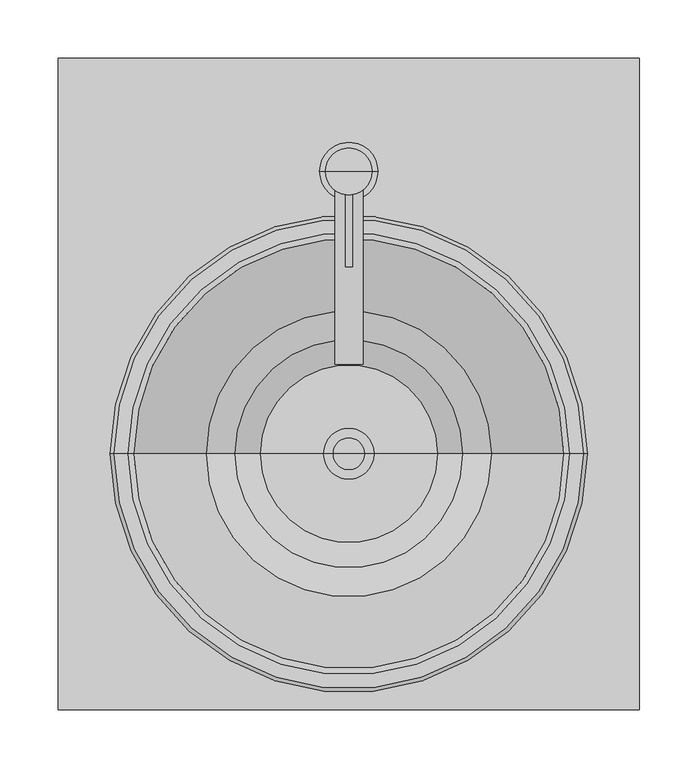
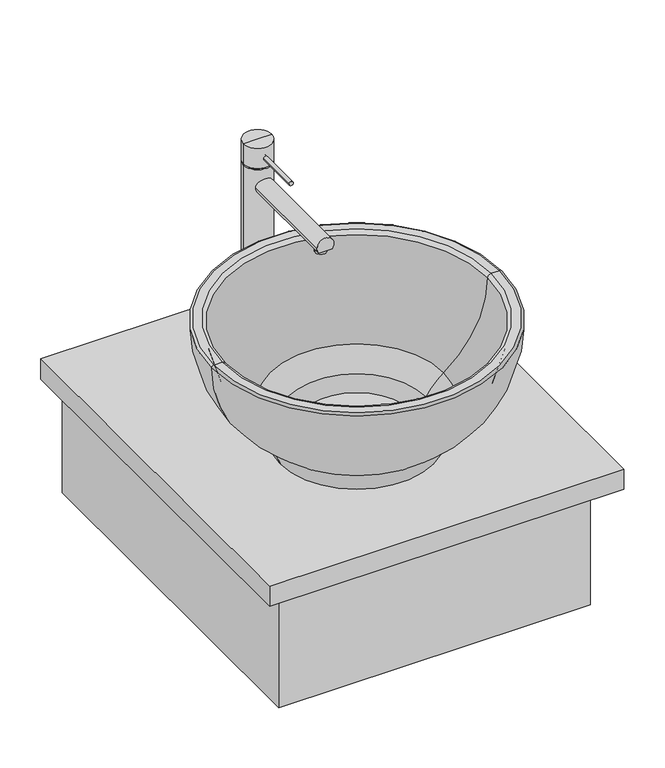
"""IFC4 building model written with IfcOpenShell, lengths in millimetres: flow terminal geometry, 싱크대 - 욕실(3) : 싱크대 - 욕실(3)."""

from ifc_helpers import new_model, si_unit, point, frame, frame_2d, origin, place, context, project, spatial, polyline, circle_curve, ellipse_curve, trimmed, segment, composite_curve, outline, extrude, source, transform, mapped, element, save
from ifc_brep_helpers import plane_surface, cylinder_surface, revolved_surface, advanced_brep


def flow_terminal_f2fd3159(model_context):
    return source(origin(), model_context, "Body", "SolidModel", [
        advanced_brep(
        [(36.8498666, -263.0115865, 240.6419785), (12.8498666, -263.0115865, 240.6419785), (15.4584351, -263.0115865, 233.1719709), (34.2412981, -263.0115865, 233.1719709), (12.8498666, -97.3032703, 240.6419785), (36.8498666, -97.3032703, 240.6419785), (34.2412981, -238.0115865, 233.1719709), (15.4584351, -238.0115865, 233.1719709)],
        [
            (0, 1, circle_curve(frame((24.8498666, -263.0115865, 240.6419785), z_axis=(0.0, -1.0, 0.0), x_axis=(1.0000000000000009, 0.0, 0.0)), 12.0)),
            (1, 2, circle_curve(frame((24.8498666, -263.0115865, 240.6419785), z_axis=(0.0, -1.0, 0.0), x_axis=(1.0000000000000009, 0.0, 0.0)), 12.0)),
            (2, 3),
            (3, 0, circle_curve(frame((24.8498666, -263.0115865, 240.6419785), z_axis=(0.0, -1.0, 0.0), x_axis=(1.0000000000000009, 0.0, 0.0)), 12.0)),
            (4, 5, circle_curve(frame((24.8498666, -97.3032703, 240.6419785), z_axis=(0.0, 1.0, 0.0), x_axis=(1.0000000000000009, 0.0, 0.0)), 12.0)),
            (5, 4, circle_curve(frame((24.8498666, -97.3032703, 240.6419785), z_axis=(0.0, 1.0, 0.0), x_axis=(1.0000000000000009, 0.0, 0.0)), 12.0)),
            (5, 0),
            (3, 6),
            (6, 7, circle_curve(frame((24.8498666, -238.0115865, 240.6419785), z_axis=(0.0, 1.0, 0.0), x_axis=(1.0000000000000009, 0.0, 0.0)), 12.0)),
            (7, 2),
            (1, 4),
            (7, 6),
        ],
        [
            plane_surface(frame((36.8498666, -263.0115865, 240.6419785), z_axis=(0.0, -1.0, 0.0), x_axis=(0.0, 0.0, 1.0))),
            plane_surface(frame((36.8498666, -97.3032703, 240.6419785), z_axis=(0.0, 1.0, 0.0), x_axis=(0.0, 0.0, -1.0))),
            cylinder_surface(frame((24.8498666, -97.3032703, 240.6419785), z_axis=(0.0, -1.0000000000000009, 0.0), x_axis=(1.0000000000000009, 0.0, 0.0)), 12.0),
            plane_surface(frame((9.4348983, -263.0115865, 233.1719709), z_axis=(0.0, 0.0, -1.0), x_axis=(1.0, 0.0, 0.0))),
            plane_surface(frame((9.4348983, -238.0115865, 233.1719709), z_axis=(0.0, -1.0, 0.0), x_axis=(1.0, 0.0, 0.0))),
        ],
        [
            (0, [[1, 2, 3, 4]]),
            (1, [[5, 6]]),
            (2, [[-6, 7, -4, 8, 9, 10, -2, 11]]),
            (2, [[-1, -7, -5, -11]]),
            (3, [[12, -8, -3, -10]]),
            (4, [[-12, -9]]),
        ],
    ),
        extrude(outline(composite_curve([segment(trimmed(circle_curve(frame_2d((283.2676852, 24.8498666)), 3.0), [point((283.2676852, 21.8498666))], [point((283.2676852, 27.8498666))], False, "CARTESIAN"), True, "CONTINUOUS"), segment(trimmed(circle_curve(frame_2d((283.2676852, 24.8498666)), 3.0), [point((283.2676852, 27.8498666))], [point((283.2676852, 21.8498666))], False, "CARTESIAN"), True, "CONTINUOUS")], self_intersect=False)), frame((0.0, -179.3463368, 0.0), z_axis=(0.0, 1.0, 0.0), x_axis=(0.0, 0.0, 1.0)), (0.0, 0.0, 1.0), 82.0430665),
        advanced_brep(
        [(24.8498666, -97.3032703, 0.0), (-0.1501334, -97.3032703, 0.0), (49.8498666, -97.3032703, 0.0), (44.8498666, -97.3032703, 300.0), (4.8498666, -97.3032703, 300.0), (24.8498666, -97.3032703, 300.0), (44.8498666, -97.3032703, 270.0), (4.8498666, -97.3032703, 270.0), (42.8498666, -97.3032703, 270.0), (6.8498666, -97.3032703, 270.0), (42.8498666, -97.3032703, 268.0), (6.8498666, -97.3032703, 268.0), (44.8498666, -97.3032703, 268.0), (4.8498666, -97.3032703, 268.0), (44.8498666, -97.3032703, 4.0), (4.8498666, -97.3032703, 4.0), (49.8498666, -97.3032703, 4.0), (-0.1501334, -97.3032703, 4.0)],
        [
            (0, 1),
            (1, 2, circle_curve(frame((24.8498666, -97.3032703, 0.0), z_axis=(0.0, 0.0, -1.0), x_axis=(-1.0000000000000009, 0.0, 0.0)), 25.0)),
            (2, 0),
            (2, 1, circle_curve(frame((24.8498666, -97.3032703, 0.0), z_axis=(0.0, 0.0, -1.0), x_axis=(-1.0000000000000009, 0.0, 0.0)), 25.0)),
            (3, 4, circle_curve(frame((24.8498666, -97.3032703, 300.0), z_axis=(0.0, 0.0, 1.0), x_axis=(-1.0000000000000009, 0.0, 0.0)), 20.0)),
            (4, 5),
            (5, 3),
            (4, 3, circle_curve(frame((24.8498666, -97.3032703, 300.0), z_axis=(0.0, 0.0, 1.0), x_axis=(-1.0000000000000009, 0.0, 0.0)), 20.0)),
            (3, 6),
            (6, 7, circle_curve(frame((24.8498666, -97.3032703, 270.0), z_axis=(0.0, 0.0, 1.0), x_axis=(-1.0000000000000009, 0.0, 0.0)), 20.0)),
            (7, 4),
            (7, 6, circle_curve(frame((24.8498666, -97.3032703, 270.0), z_axis=(0.0, 0.0, 1.0), x_axis=(-1.0000000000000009, 0.0, 0.0)), 20.0)),
            (6, 8),
            (8, 9, circle_curve(frame((24.8498666, -97.3032703, 270.0), z_axis=(0.0, 0.0, 1.0), x_axis=(-1.0000000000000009, 0.0, 0.0)), 18.0)),
            (9, 7),
            (9, 8, circle_curve(frame((24.8498666, -97.3032703, 270.0), z_axis=(0.0, 0.0, 1.0), x_axis=(-1.0000000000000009, 0.0, 0.0)), 18.0)),
            (8, 10),
            (10, 11, circle_curve(frame((24.8498666, -97.3032703, 268.0), z_axis=(0.0, 0.0, 1.0), x_axis=(-1.0000000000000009, 0.0, 0.0)), 18.0)),
            (11, 9),
            (11, 10, circle_curve(frame((24.8498666, -97.3032703, 268.0), z_axis=(0.0, 0.0, 1.0), x_axis=(-1.0000000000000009, 0.0, 0.0)), 18.0)),
            (10, 12),
            (12, 13, circle_curve(frame((24.8498666, -97.3032703, 268.0), z_axis=(0.0, 0.0, 1.0), x_axis=(-1.0000000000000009, 0.0, 0.0)), 20.0)),
            (13, 11),
            (13, 12, circle_curve(frame((24.8498666, -97.3032703, 268.0), z_axis=(0.0, 0.0, 1.0), x_axis=(-1.0000000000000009, 0.0, 0.0)), 20.0)),
            (12, 14),
            (14, 15, circle_curve(frame((24.8498666, -97.3032703, 4.0), z_axis=(0.0, 0.0, 1.0), x_axis=(-1.0000000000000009, 0.0, 0.0)), 20.0)),
            (15, 13),
            (15, 14, circle_curve(frame((24.8498666, -97.3032703, 4.0), z_axis=(0.0, 0.0, 1.0), x_axis=(-1.0000000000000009, 0.0, 0.0)), 20.0)),
            (14, 16),
            (16, 17, circle_curve(frame((24.8498666, -97.3032703, 4.0), z_axis=(0.0, 0.0, 1.0), x_axis=(-1.0000000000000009, 0.0, 0.0)), 25.0)),
            (17, 15),
            (17, 16, circle_curve(frame((24.8498666, -97.3032703, 4.0), z_axis=(0.0, 0.0, 1.0), x_axis=(-1.0000000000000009, 0.0, 0.0)), 25.0)),
            (1, 17),
            (16, 2),
        ],
        [
            plane_surface(frame((24.8498666, -97.3032703, 0.0), z_axis=(0.0, 0.0, -1.0), x_axis=(-1.0, 0.0, 0.0))),
            plane_surface(frame((24.8498666, -97.3032703, 300.0), z_axis=(0.0, 0.0, 1.0), x_axis=(-1.0, 0.0, 0.0))),
            cylinder_surface(frame((24.8498666, -97.3032703, -25.0), z_axis=(0.0, 0.0, -1.0), x_axis=(-1.0000000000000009, 0.0, 0.0)), 20.0),
            plane_surface(frame((24.8498666, -97.3032703, 270.0), z_axis=(0.0, 0.0, -1.0), x_axis=(-1.0, 0.0, 0.0))),
            cylinder_surface(frame((24.8498666, -97.3032703, -25.0), z_axis=(0.0, 0.0, -1.0), x_axis=(-1.0000000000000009, 0.0, 0.0)), 18.0),
            plane_surface(frame((24.8498666, -97.3032703, 268.0), z_axis=(0.0, 0.0, 1.0), x_axis=(-1.0, 0.0, 0.0))),
            plane_surface(frame((24.8498666, -97.3032703, 4.0), z_axis=(0.0, 0.0, 1.0), x_axis=(-1.0, 0.0, 0.0))),
            cylinder_surface(frame((24.8498666, -97.3032703, -25.0), z_axis=(0.0, 0.0, -1.0), x_axis=(-1.0000000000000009, 0.0, 0.0)), 25.0),
        ],
        [
            (0, [[1, 2, 3]]),
            (0, [[-1, -3, 4]]),
            (1, [[5, 6, 7]]),
            (1, [[-6, 8, -7]]),
            (2, [[-5, 9, 10, 11]]),
            (2, [[-8, -11, 12, -9]]),
            (3, [[-10, 13, 14, 15]]),
            (3, [[-12, -15, 16, -13]]),
            (4, [[-14, 17, 18, 19]]),
            (4, [[-16, -19, 20, -17]]),
            (5, [[-18, 21, 22, 23]]),
            (5, [[-20, -23, 24, -21]]),
            (2, [[-22, 25, 26, 27]]),
            (2, [[-24, -27, 28, -25]]),
            (6, [[-26, 29, 30, 31]]),
            (6, [[-28, -31, 32, -29]]),
            (7, [[-2, 33, -30, 34]]),
            (7, [[-4, -34, -32, -33]]),
        ],
    ),
        advanced_brep(
        [(16.8498666, -251.7329747, 233.1719709), (32.8498666, -251.7329747, 233.1719709), (16.8498666, -251.7329747, 227.0717002), (32.8498666, -251.7329747, 227.0717002)],
        [
            (0, 1, circle_curve(frame((24.8498666, -251.7329747, 233.1719709), z_axis=(0.0, 0.0, 1.0), x_axis=(1.0000000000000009, 0.0, 0.0)), 8.0)),
            (1, 0, circle_curve(frame((24.8498666, -251.7329747, 233.1719709), z_axis=(0.0, 0.0, 1.0), x_axis=(1.0000000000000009, 0.0, 0.0)), 8.0)),
            (2, 3, circle_curve(frame((24.8498666, -251.7329747, 227.0717002), z_axis=(0.0, 0.0, -1.0), x_axis=(1.0000000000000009, 0.0, 0.0)), 8.0)),
            (3, 2, circle_curve(frame((24.8498666, -251.7329747, 227.0717002), z_axis=(0.0, 0.0, -1.0), x_axis=(1.0000000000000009, 0.0, 0.0)), 8.0)),
            (0, 2),
            (3, 1),
        ],
        [
            plane_surface(frame((32.8498666, -251.7329747, 233.1719709), z_axis=(0.0, 0.0, 1.0), x_axis=(0.0, 1.0, 0.0))),
            plane_surface(frame((32.8498666, -251.7329747, 227.0717002), z_axis=(0.0, 0.0, -1.0), x_axis=(0.0, -1.0, 0.0))),
            cylinder_surface(frame((24.8498666, -251.7329747, 227.0717002), z_axis=(0.0, 0.0, 1.0), x_axis=(1.0000000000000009, 0.0, 0.0)), 8.0),
        ],
        [
            (0, [[1, 2]]),
            (1, [[3, 4]]),
            (2, [[-1, 5, -4, 6]]),
            (2, [[-2, -6, -3, -5]]),
        ],
    ),
        extrude(outline(polyline([(244.8498666, 0.0), (244.8498666, -530.0), (-195.1501334, -530.0), (-195.1501334, 0.0), (244.8498666, 0.0)])), frame((0.0, 0.0, -210.1486732), z_axis=(0.0, 0.0, 1.0), x_axis=(1.0, 0.0, 0.0)), (0.0, 0.0, 1.0), 180.1486732),
        advanced_brep(
        [(159.492516, -340.0, 38.9404698), (-109.7927828, -340.0, 38.9404698), (-83.6446991, -340.0, 0.0149562), (133.3444323, -340.0, 0.0149562), (229.8893941, -340.0, 176.9639382), (-180.1896609, -340.0, 176.9639382), (226.8893975, -340.0, 179.9594217), (-177.1896643, -340.0, 179.9594217), (214.8413431, -340.0, 179.9594217), (-165.1416099, -340.0, 179.9594217), (209.8416315, -340.0, 175.0131262), (-160.1418983, -340.0, 175.0131262), (147.7614611, -340.0, 55.100298), (-98.0617279, -340.0, 55.100298), (123.0230307, -340.0, 27.5820235), (-73.3232975, -340.0, 27.5820235), (101.325246, -340.0, 15.0), (-51.6255129, -340.0, 15.0), (46.8498666, -340.0, 15.0), (2.8498666, -340.0, 15.0), (46.8498666, -340.0, 13.464751), (2.8498666, -340.0, 13.464751), (41.8498666, -340.0, 13.464751), (7.8498666, -340.0, 13.464751), (41.8498666, -340.0, 0.0149562), (7.8498666, -340.0, 0.0149562)],
        [
            (0, 1, circle_curve(frame((24.8498666, -340.0, 38.9404698), z_axis=(0.0, 0.0, -1.0), x_axis=(-1.0, 0.0, 0.0)), 134.6426494)),
            (1, 2, circle_curve(frame((-149.498803, -340.0, -15.9771174), z_axis=(0.0, 1.0, 0.0), x_axis=(-1.0, 0.0, 0.0)), 67.7680561)),
            (2, 3, circle_curve(frame((24.8498666, -340.0, 0.0149562), z_axis=(0.0, 0.0, 1.0), x_axis=(-1.0, 0.0, 0.0)), 108.4945657)),
            (3, 0, circle_curve(frame((199.1985362, -340.0, -15.9771174), z_axis=(0.0, 1.0, 0.0), x_axis=(1.0, 0.0, 0.0)), 67.7680561)),
            (1, 0, circle_curve(frame((24.8498666, -340.0, 38.9404698), z_axis=(0.0, 0.0, -1.0), x_axis=(-1.0, 0.0, 0.0)), 134.6426494)),
            (3, 2, circle_curve(frame((24.8498666, -340.0, 0.0149562), z_axis=(0.0, 0.0, 1.0), x_axis=(-1.0, 0.0, 0.0)), 108.4945657)),
            (4, 5, circle_curve(frame((24.8498666, -340.0, 176.9639382), z_axis=(0.0, 0.0, -1.0), x_axis=(-1.0, 0.0, 0.0)), 205.0395275)),
            (5, 1, circle_curve(frame((-10.185344, -340.0, 176.7079965), z_axis=(0.0, -1.0, 0.0), x_axis=(-1.0, 0.0, 0.0)), 170.0045096)),
            (0, 4, circle_curve(frame((59.8850772, -340.0, 176.7079965), z_axis=(0.0, -1.0, 0.0), x_axis=(1.0, 0.0, 0.0)), 170.0045096)),
            (5, 4, circle_curve(frame((24.8498666, -340.0, 176.9639382), z_axis=(0.0, 0.0, -1.0), x_axis=(-1.0, 0.0, 0.0)), 205.0395275)),
            (6, 7, circle_curve(frame((24.8498666, -340.0, 179.9594217), z_axis=(0.0, 0.0, -1.0), x_axis=(-1.0, 0.0, 0.0)), 202.0395309)),
            (7, 5, circle_curve(frame((-177.1896643, -340.0, 176.9594217), z_axis=(0.0, -1.0, 0.0), x_axis=(-1.0, 0.0, 0.0)), 3.0)),
            (4, 6, circle_curve(frame((226.8893975, -340.0, 176.9594217), z_axis=(0.0, -1.0, 0.0), x_axis=(1.0, 0.0, 0.0)), 3.0)),
            (7, 6, circle_curve(frame((24.8498666, -340.0, 179.9594217), z_axis=(0.0, 0.0, -1.0), x_axis=(-1.0, 0.0, 0.0)), 202.0395309)),
            (8, 9, circle_curve(frame((24.8498666, -340.0, 179.9594217), z_axis=(0.0, 0.0, -1.0), x_axis=(-1.0, 0.0, 0.0)), 189.9914765)),
            (9, 7),
            (6, 8),
            (9, 8, circle_curve(frame((24.8498666, -340.0, 179.9594217), z_axis=(0.0, 0.0, -1.0), x_axis=(-1.0, 0.0, 0.0)), 189.9914765)),
            (10, 11, circle_curve(frame((24.8498666, -340.0, 175.0131262), z_axis=(0.0, 0.0, -1.0), x_axis=(-1.0, 0.0, 0.0)), 184.9917649)),
            (11, 9, circle_curve(frame((-165.1416099, -340.0, 174.9594217), z_axis=(0.0, -1.0, 0.0), x_axis=(-1.0, 0.0, 0.0)), 5.0)),
            (8, 10, circle_curve(frame((214.8413431, -340.0, 174.9594217), z_axis=(0.0, -1.0, 0.0), x_axis=(1.0, 0.0, 0.0)), 5.0)),
            (11, 10, circle_curve(frame((24.8498666, -340.0, 175.0131262), z_axis=(0.0, 0.0, -1.0), x_axis=(-1.0, 0.0, 0.0)), 184.9917649)),
            (12, 13, circle_curve(frame((24.8498666, -340.0, 55.100298), z_axis=(0.0, 0.0, -1.0), x_axis=(-1.0, 0.0, 0.0)), 122.9115945)),
            (13, 11, circle_curve(frame((-10.1797596, -340.0, 176.6239477), z_axis=(0.0, 1.0, 0.0), x_axis=(-1.0, 0.0, 0.0)), 149.9707898)),
            (10, 12, circle_curve(frame((59.8794928, -340.0, 176.6239477), z_axis=(0.0, 1.0, 0.0), x_axis=(1.0, 0.0, 0.0)), 149.9707898)),
            (13, 12, circle_curve(frame((24.8498666, -340.0, 55.100298), z_axis=(0.0, 0.0, -1.0), x_axis=(-1.0, 0.0, 0.0)), 122.9115945)),
            (14, 15, circle_curve(frame((24.8498666, -340.0, 27.5820235), z_axis=(0.0, 0.0, -1.0), x_axis=(-1.0, 0.0, 0.0)), 98.1731641)),
            (15, 13, circle_curve(frame((-149.4830487, -340.0, -16.0053759), z_axis=(0.0, -1.0, 0.0), x_axis=(-1.0, 0.0, 0.0)), 87.7506073)),
            (12, 14, circle_curve(frame((199.1827819, -340.0, -16.0053759), z_axis=(0.0, -1.0, 0.0), x_axis=(1.0, 0.0, 0.0)), 87.7506073)),
            (15, 14, circle_curve(frame((24.8498666, -340.0, 27.5820235), z_axis=(0.0, 0.0, -1.0), x_axis=(-1.0, 0.0, 0.0)), 98.1731641)),
            (16, 17, circle_curve(frame((24.8498666, -340.0, 15.0), z_axis=(0.0, 0.0, -1.0), x_axis=(-1.0, 0.0, 0.0)), 76.4753794)),
            (17, 15, circle_curve(frame((-51.6255129, -340.0, 40.0), z_axis=(0.0, 1.0, 0.0), x_axis=(-1.0, 0.0, 0.0)), 25.0)),
            (14, 16, circle_curve(frame((101.325246, -340.0, 40.0), z_axis=(0.0, 1.0, 0.0), x_axis=(1.0, 0.0, 0.0)), 25.0)),
            (17, 16, circle_curve(frame((24.8498666, -340.0, 15.0), z_axis=(0.0, 0.0, -1.0), x_axis=(-1.0, 0.0, 0.0)), 76.4753794)),
            (18, 19, circle_curve(frame((24.8498666, -340.0, 15.0), z_axis=(0.0, 0.0, -1.0), x_axis=(-1.0, 0.0, 0.0)), 22.0)),
            (19, 17),
            (16, 18),
            (19, 18, circle_curve(frame((24.8498666, -340.0, 15.0), z_axis=(0.0, 0.0, -1.0), x_axis=(-1.0, 0.0, 0.0)), 22.0)),
            (20, 21, circle_curve(frame((24.8498666, -340.0, 13.464751), z_axis=(0.0, 0.0, -1.0), x_axis=(-1.0, 0.0, 0.0)), 22.0)),
            (21, 19),
            (18, 20),
            (21, 20, circle_curve(frame((24.8498666, -340.0, 13.464751), z_axis=(0.0, 0.0, -1.0), x_axis=(-1.0, 0.0, 0.0)), 22.0)),
            (22, 23, circle_curve(frame((24.8498666, -340.0, 13.464751), z_axis=(0.0, 0.0, -1.0), x_axis=(-1.0, 0.0, 0.0)), 17.0)),
            (23, 21),
            (20, 22),
            (23, 22, circle_curve(frame((24.8498666, -340.0, 13.464751), z_axis=(0.0, 0.0, -1.0), x_axis=(-1.0, 0.0, 0.0)), 17.0)),
            (24, 25, circle_curve(frame((24.8498666, -340.0, 0.0149562), z_axis=(0.0, 0.0, -1.0), x_axis=(-1.0, 0.0, 0.0)), 17.0)),
            (25, 23),
            (22, 24),
            (25, 24, circle_curve(frame((24.8498666, -340.0, 0.0149562), z_axis=(0.0, 0.0, -1.0), x_axis=(-1.0, 0.0, 0.0)), 17.0)),
            (2, 25),
            (24, 3),
        ],
        [
            revolved_surface(trimmed(ellipse_curve(frame((-149.498803, -340.0, -15.9771174), z_axis=(0.0, -1.0, 0.0), x_axis=(-1.0, 0.0, 0.0)), 67.7680561, 67.7680561), [point((-83.6446991, -340.0, 0.0149562))], [point((-109.7927828, -340.0, 38.9404698))], True, "CARTESIAN"), (24.8498666, -340.0, -50.0), (0.0, 0.0, 1.0)),
            revolved_surface(trimmed(ellipse_curve(frame((-10.185344, -340.0, 176.7079965), z_axis=(0.0, 1.0, 0.0), x_axis=(-1.0, 0.0, 0.0)), 170.0045096, 170.0045096), [point((-109.7927828, -340.0, 38.9404698))], [point((-180.1896609, -340.0, 176.9639382))], True, "CARTESIAN"), (24.8498666, -340.0, -50.0), (0.0, 0.0, 1.0)),
            revolved_surface(trimmed(ellipse_curve(frame((-177.1896643, -340.0, 176.9594217), z_axis=(0.0, 1.0, 0.0), x_axis=(-1.0, 0.0, 0.0)), 3.0, 3.0), [point((-180.1896609, -340.0, 176.9639382))], [point((-177.1896643, -340.0, 179.9594217))], True, "CARTESIAN"), (24.8498666, -340.0, -50.0), (0.0, 0.0, 1.0)),
            plane_surface(frame((24.8498666, -340.0, 179.9594217), z_axis=(0.0, 0.0, 1.0), x_axis=(-1.0, 0.0, 0.0))),
            revolved_surface(trimmed(ellipse_curve(frame((-165.1416099, -340.0, 174.9594217), z_axis=(0.0, 1.0, 0.0), x_axis=(-1.0, 0.0, 0.0)), 5.0, 5.0), [point((-165.1416099, -340.0, 179.9594217))], [point((-160.1418983, -340.0, 175.0131262))], True, "CARTESIAN"), (24.8498666, -340.0, -50.0), (0.0, 0.0, 1.0)),
            revolved_surface(trimmed(ellipse_curve(frame((-10.1797596, -340.0, 176.6239477), z_axis=(0.0, -1.0, 0.0), x_axis=(-1.0, 0.0, 0.0)), 149.9707898, 149.9707898), [point((-160.1418983, -340.0, 175.0131262))], [point((-98.0617279, -340.0, 55.100298))], True, "CARTESIAN"), (24.8498666, -340.0, -50.0), (0.0, 0.0, 1.0)),
            revolved_surface(trimmed(ellipse_curve(frame((-149.4830487, -340.0, -16.0053759), z_axis=(0.0, 1.0, 0.0), x_axis=(-1.0, 0.0, 0.0)), 87.7506073, 87.7506073), [point((-98.0617279, -340.0, 55.100298))], [point((-73.3232975, -340.0, 27.5820235))], True, "CARTESIAN"), (24.8498666, -340.0, -50.0), (0.0, 0.0, 1.0)),
            revolved_surface(trimmed(ellipse_curve(frame((-51.6255129, -340.0, 40.0), z_axis=(0.0, -1.0, 0.0), x_axis=(-1.0, 0.0, 0.0)), 25.0, 25.0), [point((-73.3232975, -340.0, 27.5820235))], [point((-51.6255129, -340.0, 15.0))], True, "CARTESIAN"), (24.8498666, -340.0, -50.0), (0.0, 0.0, 1.0)),
            plane_surface(frame((24.8498666, -340.0, 15.0), z_axis=(0.0, 0.0, 1.0), x_axis=(-1.0, 0.0, 0.0))),
            revolved_surface(polyline([(2.8498665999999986, -340.0, 15.0), (2.8498665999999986, -340.0, 13.464751)]), (24.8498666, -340.0, -50.0), (0.0, 0.0, 1.0)),
            plane_surface(frame((24.8498666, -340.0, 13.464751), z_axis=(0.0, 0.0, 1.0), x_axis=(-1.0, 0.0, 0.0))),
            revolved_surface(polyline([(7.849866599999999, -340.0, 13.464751), (7.849866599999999, -340.0, 0.014956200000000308)]), (24.8498666, -340.0, -50.0), (0.0, 0.0, 1.0)),
            plane_surface(frame((24.8498666, -340.0, 0.0149562), z_axis=(0.0, 0.0, -1.0), x_axis=(-1.0, 0.0, 0.0))),
        ],
        [
            (0, [[1, 2, 3, 4]]),
            (0, [[5, -4, 6, -2]]),
            (1, [[7, 8, -1, 9]]),
            (1, [[10, -9, -5, -8]]),
            (2, [[11, 12, -7, 13]]),
            (2, [[14, -13, -10, -12]]),
            (3, [[15, 16, -11, 17]]),
            (3, [[18, -17, -14, -16]]),
            (4, [[19, 20, -15, 21]]),
            (4, [[22, -21, -18, -20]]),
            (5, [[23, 24, -19, 25]]),
            (5, [[26, -25, -22, -24]]),
            (6, [[27, 28, -23, 29]]),
            (6, [[30, -29, -26, -28]]),
            (7, [[31, 32, -27, 33]]),
            (7, [[34, -33, -30, -32]]),
            (8, [[35, 36, -31, 37]]),
            (8, [[38, -37, -34, -36]]),
            (9, [[39, 40, -35, 41]]),
            (9, [[42, -41, -38, -40]]),
            (10, [[43, 44, -39, 45]]),
            (10, [[46, -45, -42, -44]]),
            (11, [[47, 48, -43, 49]]),
            (11, [[50, -49, -46, -48]]),
            (12, [[-3, 51, -47, 52]]),
            (12, [[-6, -52, -50, -51]]),
        ],
    ),
        extrude(outline(polyline([(274.8498666, 0.0), (274.8498666, -560.0), (-225.1501334, -560.0), (-225.1501334, 0.0), (274.8498666, 0.0)])), frame((0.0, 0.0, -30.0), z_axis=(0.0, 0.0, 1.0), x_axis=(1.0, 0.0, 0.0)), (0.0, 0.0, 1.0), 30.0),
        advanced_brep(
        [(38.5877729, -340.0, 15.0), (11.1119603, -340.0, 15.0), (2.8498666, -340.0, 15.0), (46.8498666, -340.0, 15.0), (38.5877729, -340.0, 3.7247134), (11.1119603, -340.0, 3.7247134), (24.8498666, -340.0, 3.7247134), (41.8498666, -340.0, 0.0), (7.8498666, -340.0, 0.0), (24.8498666, -340.0, 0.0), (41.8498666, -340.0, 13.464751), (7.8498666, -340.0, 13.464751), (46.8498666, -340.0, 13.464751), (2.8498666, -340.0, 13.464751)],
        [
            (0, 1, circle_curve(frame((24.8498666, -340.0, 15.0), z_axis=(0.0, 0.0, -1.0), x_axis=(-1.0, 0.0, 0.0)), 13.7379063)),
            (1, 2),
            (2, 3, circle_curve(frame((24.8498666, -340.0, 15.0), z_axis=(0.0, 0.0, 1.0), x_axis=(-1.0, 0.0, 0.0)), 22.0)),
            (3, 0),
            (1, 0, circle_curve(frame((24.8498666, -340.0, 15.0), z_axis=(0.0, 0.0, -1.0), x_axis=(-1.0, 0.0, 0.0)), 13.7379063)),
            (3, 2, circle_curve(frame((24.8498666, -340.0, 15.0), z_axis=(0.0, 0.0, 1.0), x_axis=(-1.0, 0.0, 0.0)), 22.0)),
            (4, 5, circle_curve(frame((24.8498666, -340.0, 3.7247134), z_axis=(0.0, 0.0, -1.0), x_axis=(-1.0, 0.0, 0.0)), 13.7379063)),
            (5, 1),
            (0, 4),
            (5, 4, circle_curve(frame((24.8498666, -340.0, 3.7247134), z_axis=(0.0, 0.0, -1.0), x_axis=(-1.0, 0.0, 0.0)), 13.7379063)),
            (6, 5),
            (4, 6),
            (7, 8, circle_curve(frame((24.8498666, -340.0, 0.0), z_axis=(0.0, 0.0, -1.0), x_axis=(-1.0, 0.0, 0.0)), 17.0)),
            (8, 9),
            (9, 7),
            (8, 7, circle_curve(frame((24.8498666, -340.0, 0.0), z_axis=(0.0, 0.0, -1.0), x_axis=(-1.0, 0.0, 0.0)), 17.0)),
            (10, 11, circle_curve(frame((24.8498666, -340.0, 13.464751), z_axis=(0.0, 0.0, -1.0), x_axis=(-1.0, 0.0, 0.0)), 17.0)),
            (11, 8),
            (7, 10),
            (11, 10, circle_curve(frame((24.8498666, -340.0, 13.464751), z_axis=(0.0, 0.0, -1.0), x_axis=(-1.0, 0.0, 0.0)), 17.0)),
            (12, 13, circle_curve(frame((24.8498666, -340.0, 13.464751), z_axis=(0.0, 0.0, -1.0), x_axis=(-1.0, 0.0, 0.0)), 22.0)),
            (13, 11),
            (10, 12),
            (13, 12, circle_curve(frame((24.8498666, -340.0, 13.464751), z_axis=(0.0, 0.0, -1.0), x_axis=(-1.0, 0.0, 0.0)), 22.0)),
            (2, 13),
            (12, 3),
        ],
        [
            plane_surface(frame((24.8498666, -340.0, 15.0), z_axis=(0.0, 0.0, 1.0), x_axis=(-1.0, 0.0, 0.0))),
            revolved_surface(polyline([(11.111960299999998, -340.0, 15.000000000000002), (11.111960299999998, -340.0, 3.7247134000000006)]), (24.8498666, -340.0, -6.9916745), (0.0, 0.0, 1.0)),
            plane_surface(frame((24.8498666, -340.0, 3.7247134), z_axis=(0.0, 0.0, 1.0), x_axis=(-1.0, 0.0, 0.0))),
            plane_surface(frame((24.8498666, -340.0, 0.0), z_axis=(0.0, 0.0, -1.0), x_axis=(-1.0, 0.0, 0.0))),
            cylinder_surface(frame((24.8498666, -340.0, -6.9916745), z_axis=(0.0, 0.0, 1.0), x_axis=(-1.0, 0.0, 0.0)), 17.0),
            plane_surface(frame((24.8498666, -340.0, 13.464751), z_axis=(0.0, 0.0, -1.0), x_axis=(-1.0, 0.0, 0.0))),
            cylinder_surface(frame((24.8498666, -340.0, -6.9916745), z_axis=(0.0, 0.0, 1.0), x_axis=(-1.0, 0.0, 0.0)), 22.0),
        ],
        [
            (0, [[1, 2, 3, 4]]),
            (0, [[5, -4, 6, -2]]),
            (1, [[7, 8, -1, 9]]),
            (1, [[10, -9, -5, -8]]),
            (2, [[11, -7, 12]]),
            (2, [[-12, -10, -11]]),
            (3, [[13, 14, 15]]),
            (3, [[16, -15, -14]]),
            (4, [[17, 18, -13, 19]]),
            (4, [[20, -19, -16, -18]]),
            (5, [[21, 22, -17, 23]]),
            (5, [[24, -23, -20, -22]]),
            (6, [[-3, 25, -21, 26]]),
            (6, [[-6, -26, -24, -25]]),
        ],
    ),
    ])


if __name__ == "__main__":
    model = new_model("IFC4")
    model_context = context("Model", 3, world=origin())
    ifc_project = project(units=[si_unit("LENGTHUNIT", "METRE", prefix="MILLI")], contexts=[model_context])
    site = spatial("IfcSite", under=ifc_project)
    building = spatial("IfcBuilding", under=site)
    placement = place(None, origin())
    flow_terminal_shape = flow_terminal_f2fd3159(model_context)
    element("IfcFlowTerminal", 1, ObjectType="싱크대 - 욕실(3) : 싱크대 - 욕실(3)", at=placement, inside=building, context=model_context, shape_type="MappedRepresentation", body=[
        mapped(flow_terminal_shape, transform((0.0, 0.0, 0.0), x_axis=(1.0, 0.0, 0.0), y_axis=(0.0, 1.0, 0.0), z_axis=(0.0, 0.0, 1.0))),
    ])
    save(model, "model.ifc")
